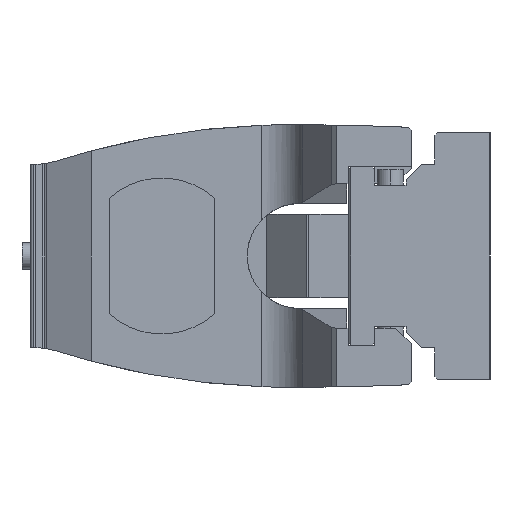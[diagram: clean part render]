
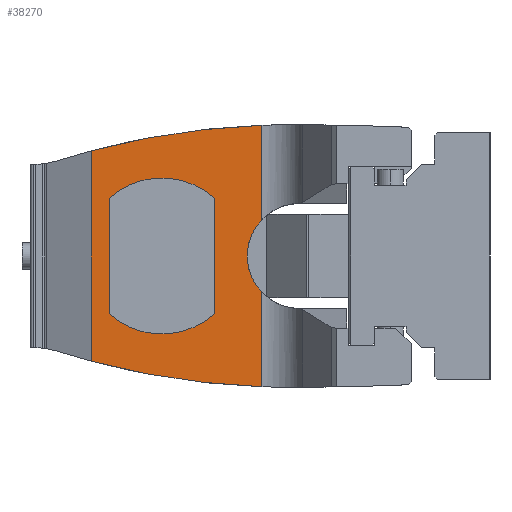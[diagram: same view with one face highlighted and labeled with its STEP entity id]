
A CAD part, left-side view. The second image highlights one B-rep face of the part: STEP entity #38270.
In plain terms, the highlighted planar face has unit normal (-1, 0, 0) as drawn and (1, 0, 0) by its records, which use the part's own axes.
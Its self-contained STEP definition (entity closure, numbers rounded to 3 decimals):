
#266 = CARTESIAN_POINT ( 'NONE',  ( 25.5, 52.88, -13.9 ) ) ;
#300 = ORIENTED_EDGE ( 'NONE', *, *, #29835, .F. ) ;
#427 = VERTEX_POINT ( 'NONE', #598 ) ;
#598 = CARTESIAN_POINT ( 'NONE',  ( 25.5, 71., 22.024 ) ) ;
#961 = DIRECTION ( 'NONE',  ( 1., 0., 0. ) ) ;
#1592 = PLANE ( 'NONE',  #39687 ) ;
#1901 = CARTESIAN_POINT ( 'NONE',  ( 25.5, 42., 245.8 ) ) ;
#2570 = CARTESIAN_POINT ( 'NONE',  ( 25.5, 71., -46.022 ) ) ;
#3046 = EDGE_CURVE ( 'NONE', #9069, #7188, #26667, .T. ) ;
#3950 = VERTEX_POINT ( 'NONE', #26956 ) ;
#4466 = AXIS2_PLACEMENT_3D ( 'NONE', #21470, #37479, #18746 ) ;
#5250 = VECTOR ( 'NONE', #21525, 1000. ) ;
#5642 = CARTESIAN_POINT ( 'NONE',  ( 25.5, 52.88, -49.999 ) ) ;
#6041 = CARTESIAN_POINT ( 'NONE',  ( 25.5, 117.9, -50. ) ) ;
#7042 = VERTEX_POINT ( 'NONE', #40543 ) ;
#7188 = VERTEX_POINT ( 'NONE', #10033 ) ;
#7233 = CARTESIAN_POINT ( 'NONE',  ( 25.5, 91., 0. ) ) ;
#8225 = LINE ( 'NONE', #28306, #26386 ) ;
#8968 = DIRECTION ( 'NONE',  ( -1., 0., 0. ) ) ;
#9069 = VERTEX_POINT ( 'NONE', #14027 ) ;
#9152 = VERTEX_POINT ( 'NONE', #11508 ) ;
#9182 = DIRECTION ( 'NONE',  ( 0., 0., -1. ) ) ;
#9576 = DIRECTION ( 'NONE',  ( 0., 0., -1. ) ) ;
#10033 = CARTESIAN_POINT ( 'NONE',  ( 25.5, 117.9, 40.097 ) ) ;
#10380 = DIRECTION ( 'NONE',  ( 1., 0., 0. ) ) ;
#10409 = LINE ( 'NONE', #5642, #13835 ) ;
#11029 = DIRECTION ( 'NONE',  ( -1., 0., 0. ) ) ;
#11508 = CARTESIAN_POINT ( 'NONE',  ( 25.5, 111., -22.024 ) ) ;
#11589 = VERTEX_POINT ( 'NONE', #36738 ) ;
#12101 = DIRECTION ( 'NONE',  ( 0., -1., 0. ) ) ;
#12203 = LINE ( 'NONE', #6041, #33711 ) ;
#13373 = VECTOR ( 'NONE', #9182, 1000. ) ;
#13404 = CARTESIAN_POINT ( 'NONE',  ( 25.5, 91., 0. ) ) ;
#13835 = VECTOR ( 'NONE', #27538, 1000. ) ;
#14027 = CARTESIAN_POINT ( 'NONE',  ( 25.5, 52.88, 49.8 ) ) ;
#15501 = ORIENTED_EDGE ( 'NONE', *, *, #3046, .F. ) ;
#16533 = ORIENTED_EDGE ( 'NONE', *, *, #16622, .T. ) ;
#16622 = EDGE_CURVE ( 'NONE', #3950, #427, #34130, .T. ) ;
#17691 = FACE_BOUND ( 'NONE', #27929, .T. ) ;
#18105 = CIRCLE ( 'NONE', #28865, 29.75 ) ;
#18746 = DIRECTION ( 'NONE',  ( 0., -1., 0. ) ) ;
#19735 = EDGE_CURVE ( 'NONE', #9069, #11589, #8225, .T. ) ;
#19954 = EDGE_CURVE ( 'NONE', #20419, #39701, #34795, .T. ) ;
#19992 = AXIS2_PLACEMENT_3D ( 'NONE', #1901, #11029, #20086 ) ;
#20086 = DIRECTION ( 'NONE',  ( 0., -1., 0. ) ) ;
#20419 = VERTEX_POINT ( 'NONE', #37967 ) ;
#21446 = EDGE_LOOP ( 'NONE', ( #32373, #33176, #33834, #24360, #15501, #30877 ) ) ;
#21470 = CARTESIAN_POINT ( 'NONE',  ( 25.5, 42., -245.8 ) ) ;
#21525 = DIRECTION ( 'NONE',  ( 0., 0., 1. ) ) ;
#21966 = ORIENTED_EDGE ( 'NONE', *, *, #34717, .F. ) ;
#22876 = AXIS2_PLACEMENT_3D ( 'NONE', #31284, #8968, #12101 ) ;
#23248 = DIRECTION ( 'NONE',  ( 0., 1., 0. ) ) ;
#23718 = CARTESIAN_POINT ( 'NONE',  ( 25.5, 150., -50. ) ) ;
#24134 = CARTESIAN_POINT ( 'NONE',  ( 25.5, 52.88, -49.8 ) ) ;
#24360 = ORIENTED_EDGE ( 'NONE', *, *, #31234, .T. ) ;
#24363 = DIRECTION ( 'NONE',  ( 0., -1., 0. ) ) ;
#26386 = VECTOR ( 'NONE', #9576, 1000. ) ;
#26667 = CIRCLE ( 'NONE', #4466, 295.8 ) ;
#26956 = CARTESIAN_POINT ( 'NONE',  ( 25.5, 71., -22.024 ) ) ;
#27006 = VERTEX_POINT ( 'NONE', #266 ) ;
#27538 = DIRECTION ( 'NONE',  ( 0., 0., -1. ) ) ;
#27653 = CARTESIAN_POINT ( 'NONE',  ( 25.5, 111., -53.978 ) ) ;
#27664 = ORIENTED_EDGE ( 'NONE', *, *, #27682, .T. ) ;
#27682 = EDGE_CURVE ( 'NONE', #7042, #9152, #38802, .T. ) ;
#27872 = EDGE_CURVE ( 'NONE', #27006, #39701, #10409, .T. ) ;
#27929 = EDGE_LOOP ( 'NONE', ( #16533, #21966, #27664, #300 ) ) ;
#27994 = FACE_OUTER_BOUND ( 'NONE', #21446, .T. ) ;
#28306 = CARTESIAN_POINT ( 'NONE',  ( 25.5, 52.88, -49.999 ) ) ;
#28865 = AXIS2_PLACEMENT_3D ( 'NONE', #7233, #961, #35281 ) ;
#29835 = EDGE_CURVE ( 'NONE', #3950, #9152, #33833, .T. ) ;
#30877 = ORIENTED_EDGE ( 'NONE', *, *, #19735, .T. ) ;
#31234 = EDGE_CURVE ( 'NONE', #20419, #7188, #12203, .T. ) ;
#31284 = CARTESIAN_POINT ( 'NONE',  ( 25.5, 38.5, 0. ) ) ;
#32373 = ORIENTED_EDGE ( 'NONE', *, *, #36123, .T. ) ;
#33176 = ORIENTED_EDGE ( 'NONE', *, *, #27872, .T. ) ;
#33711 = VECTOR ( 'NONE', #34481, 1000. ) ;
#33833 = CIRCLE ( 'NONE', #33992, 29.75 ) ;
#33834 = ORIENTED_EDGE ( 'NONE', *, *, #19954, .F. ) ;
#33992 = AXIS2_PLACEMENT_3D ( 'NONE', #13404, #10380, #23248 ) ;
#34130 = LINE ( 'NONE', #2570, #5250 ) ;
#34481 = DIRECTION ( 'NONE',  ( 0., 0., 1. ) ) ;
#34717 = EDGE_CURVE ( 'NONE', #7042, #427, #18105, .T. ) ;
#34795 = CIRCLE ( 'NONE', #19992, 295.8 ) ;
#35281 = DIRECTION ( 'NONE',  ( 0., 1., 0. ) ) ;
#35905 = CIRCLE ( 'NONE', #22876, 20. ) ;
#36123 = EDGE_CURVE ( 'NONE', #11589, #27006, #35905, .T. ) ;
#36654 = DIRECTION ( 'NONE',  ( -1., 0., 0. ) ) ;
#36738 = CARTESIAN_POINT ( 'NONE',  ( 25.5, 52.88, 13.9 ) ) ;
#37479 = DIRECTION ( 'NONE',  ( -1., 0., 0. ) ) ;
#37967 = CARTESIAN_POINT ( 'NONE',  ( 25.5, 117.9, -40.097 ) ) ;
#38270 = ADVANCED_FACE ( 'NONE', ( #27994, #17691 ), #1592, .F. ) ;
#38802 = LINE ( 'NONE', #27653, #13373 ) ;
#39687 = AXIS2_PLACEMENT_3D ( 'NONE', #23718, #36654, #24363 ) ;
#39701 = VERTEX_POINT ( 'NONE', #24134 ) ;
#40543 = CARTESIAN_POINT ( 'NONE',  ( 25.5, 111., 22.024 ) ) ;
